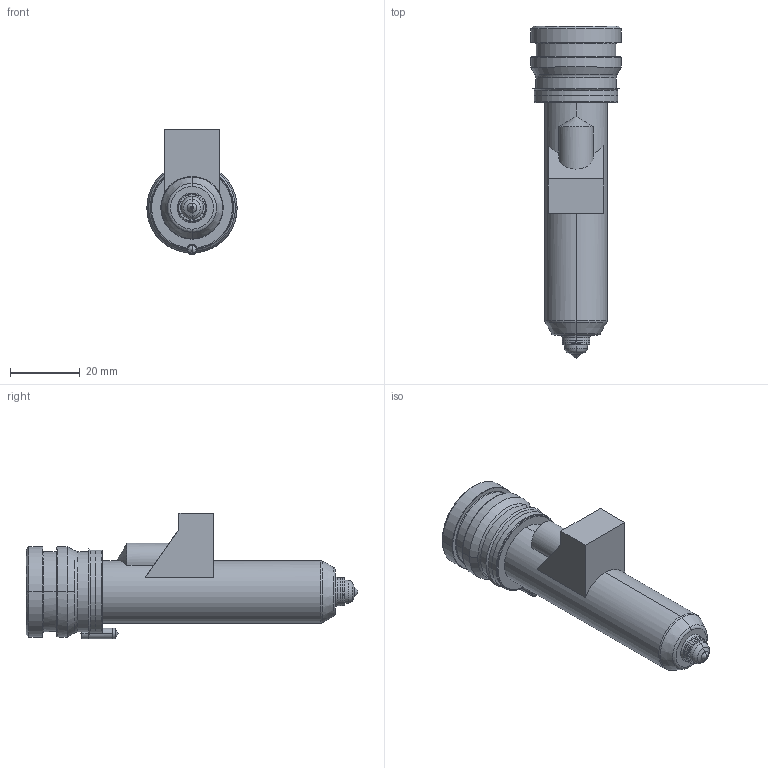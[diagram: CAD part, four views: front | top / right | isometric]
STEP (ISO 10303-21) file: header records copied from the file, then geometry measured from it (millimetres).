
FILE_DESCRIPTION((''),'2;1');
FILE_NAME('TH18077_5-M-1B15-PK-JG','2023-12-14T',('umhib'),('Thermoplay S.p.A.'),'PRO/ENGINEER BY PARAMETRIC TECHNOLOGY CORPORATION, 2017170','PRO/ENGINEER BY PARAMETRIC TECHNOLOGY CORPORATION, 2017170','');
FILE_SCHEMA(('CONFIG_CONTROL_DESIGN'));
Length unit declared in the file: millimetre
Products named in the file (1): TH18077_5-M-1B15-PK-JG
Bounding box: 26 x 95.5 x 36.1 mm (x, y, z)
Volume: 20673.8 mm3; surface area: 16054.5 mm2
Topology: 1 solids, 2 shells, 393 faces, 1003 edges, 615 vertices
Faces by surface type: cylinder 149, plane 87, cone 64, torus 58, bspline 22, sphere 11, extrusion 2
Entity records: 16881 total; most frequent: CARTESIAN_POINT 5198, DIRECTION 2010, ORIENTED_EDGE 1980, EDGE_CURVE 992, AXIS2_PLACEMENT_3D 810, VERTEX_POINT 615, CIRCLE 440, EDGE_LOOP 416
